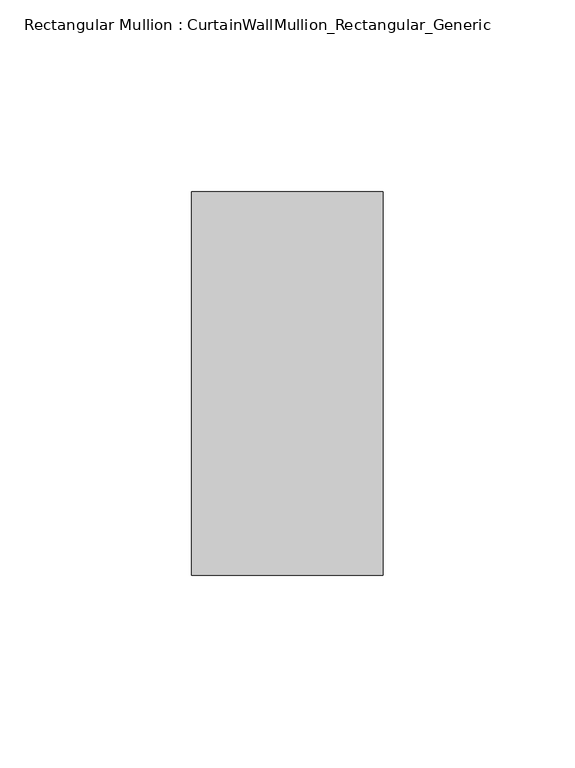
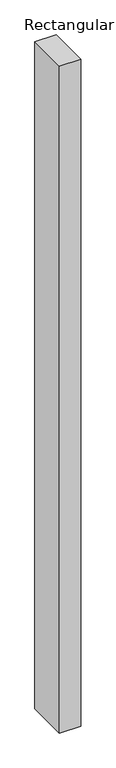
"""IFC4 building model written with IfcOpenShell, lengths in millimetres: member geometry, Rectangular Mullion : CurtainWallMullion_Rectangular_Generic."""

from ifc_helpers import new_model, si_unit, frame, origin, place, context, project, spatial, polyline, outline, extrude, source, transform, mapped, element, save


def rectangular_mullion_curtainwallmullion_rectangular_generic_6b79dff2(model_context):
    return source(origin(), model_context, "Body", "SweptSolid", [
        extrude(outline(polyline([(25.0, 50.0), (25.0, -50.0), (-25.0, -50.0), (-25.0, 50.0), (25.0, 50.0)])), frame((0.0, 0.0, -1656.1111113), z_axis=(0.0, 0.0, 1.0), x_axis=(1.0, 0.0, 0.0)), (0.0, 0.0, 1.0), 1656.1111113),
    ])


if __name__ == "__main__":
    model = new_model("IFC4")
    model_context = context("Model", 3, world=origin())
    ifc_project = project(units=[si_unit("LENGTHUNIT", "METRE", prefix="MILLI")], contexts=[model_context])
    site = spatial("IfcSite", under=ifc_project)
    building = spatial("IfcBuilding", under=site)
    placement = place(None, origin())
    rectangular_mullion_curtainwallmullion_rectangular_generic_shape = rectangular_mullion_curtainwallmullion_rectangular_generic_6b79dff2(model_context)
    element("IfcMember", 1, ObjectType="Rectangular Mullion : CurtainWallMullion_Rectangular_Generic", at=placement, inside=building, context=model_context, shape_type="MappedRepresentation", body=[
        mapped(rectangular_mullion_curtainwallmullion_rectangular_generic_shape, transform((0.0, 0.0, 0.0), x_axis=(1.0, 0.0, 0.0), y_axis=(0.0, 1.0, 0.0), z_axis=(0.0, 0.0, 1.0))),
    ])
    save(model, "model.ifc")
